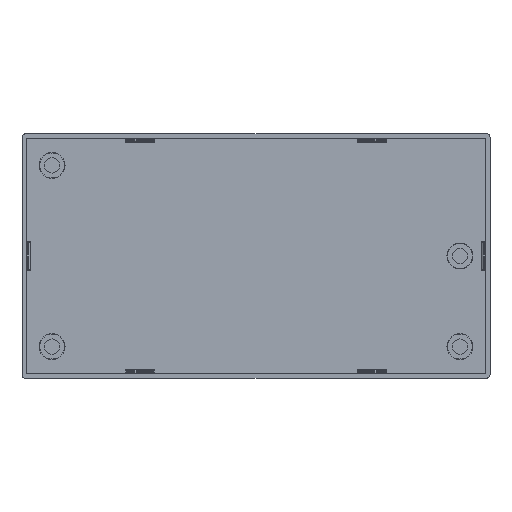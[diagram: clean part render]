
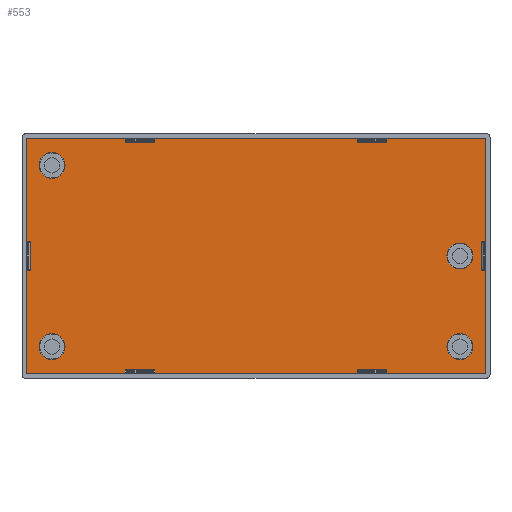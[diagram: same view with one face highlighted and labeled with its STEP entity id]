
A CAD part, front view. The second image highlights one B-rep face of the part: STEP entity #553.
In plain terms, the highlighted planar face has unit normal (0, -1, 0).
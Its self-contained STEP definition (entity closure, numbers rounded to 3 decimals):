
#22 = VERTEX_POINT('',#23);
#23 = CARTESIAN_POINT('',(22.875,0.,-11.61));
#41 = VERTEX_POINT('',#42);
#42 = CARTESIAN_POINT('',(22.875,0.,-8.71));
#48 = EDGE_CURVE('',#22,#41,#49,.T.);
#49 = CIRCLE('',#50,1.45);
#50 = AXIS2_PLACEMENT_3D('',#51,#52,#53);
#51 = CARTESIAN_POINT('',(22.875,0.,-10.16));
#52 = DIRECTION('',(0.,-1.,0.));
#53 = DIRECTION('',(0.,0.,-1.));
#64 = VERTEX_POINT('',#65);
#65 = CARTESIAN_POINT('',(22.875,0.,-1.45));
#83 = VERTEX_POINT('',#84);
#84 = CARTESIAN_POINT('',(22.875,0.,1.45));
#90 = EDGE_CURVE('',#64,#83,#91,.T.);
#91 = CIRCLE('',#92,1.45);
#92 = AXIS2_PLACEMENT_3D('',#93,#94,#95);
#93 = CARTESIAN_POINT('',(22.875,0.,0.));
#94 = DIRECTION('',(0.,-1.,0.));
#95 = DIRECTION('',(0.,0.,-1.));
#106 = VERTEX_POINT('',#107);
#107 = CARTESIAN_POINT('',(-22.875,0.,-11.61));
#125 = VERTEX_POINT('',#126);
#126 = CARTESIAN_POINT('',(-22.875,0.,-8.71));
#132 = EDGE_CURVE('',#106,#125,#133,.T.);
#133 = CIRCLE('',#134,1.45);
#134 = AXIS2_PLACEMENT_3D('',#135,#136,#137);
#135 = CARTESIAN_POINT('',(-22.875,0.,-10.16));
#136 = DIRECTION('',(0.,-1.,0.));
#137 = DIRECTION('',(0.,0.,-1.));
#148 = VERTEX_POINT('',#149);
#149 = CARTESIAN_POINT('',(-22.875,0.,8.71));
#167 = VERTEX_POINT('',#168);
#168 = CARTESIAN_POINT('',(-22.875,0.,11.61));
#174 = EDGE_CURVE('',#148,#167,#175,.T.);
#175 = CIRCLE('',#176,1.45);
#176 = AXIS2_PLACEMENT_3D('',#177,#178,#179);
#177 = CARTESIAN_POINT('',(-22.875,0.,10.16));
#178 = DIRECTION('',(0.,-1.,0.));
#179 = DIRECTION('',(0.,0.,-1.));
#200 = VERTEX_POINT('',#201);
#201 = CARTESIAN_POINT('',(25.7,0.,-1.65));
#207 = EDGE_CURVE('',#200,#208,#210,.T.);
#208 = VERTEX_POINT('',#209);
#209 = CARTESIAN_POINT('',(25.7,0.,-13.15));
#210 = LINE('',#211,#212);
#211 = CARTESIAN_POINT('',(25.7,0.,-13.15));
#212 = VECTOR('',#213,1.);
#213 = DIRECTION('',(0.,-0.,-1.));
#232 = VERTEX_POINT('',#233);
#233 = CARTESIAN_POINT('',(25.7,0.,13.15));
#239 = EDGE_CURVE('',#232,#240,#242,.T.);
#240 = VERTEX_POINT('',#241);
#241 = CARTESIAN_POINT('',(25.7,0.,1.65));
#242 = LINE('',#243,#244);
#243 = CARTESIAN_POINT('',(25.7,0.,-13.15));
#244 = VECTOR('',#245,1.);
#245 = DIRECTION('',(0.,-0.,-1.));
#272 = VERTEX_POINT('',#273);
#273 = CARTESIAN_POINT('',(-14.65,0.,-13.15));
#279 = EDGE_CURVE('',#272,#280,#282,.T.);
#280 = VERTEX_POINT('',#281);
#281 = CARTESIAN_POINT('',(-25.7,0.,-13.15));
#282 = LINE('',#283,#284);
#283 = CARTESIAN_POINT('',(-25.7,0.,-13.15));
#284 = VECTOR('',#285,1.);
#285 = DIRECTION('',(-1.,-0.,0.));
#302 = EDGE_CURVE('',#208,#303,#305,.T.);
#303 = VERTEX_POINT('',#304);
#304 = CARTESIAN_POINT('',(14.65,0.,-13.15));
#305 = LINE('',#306,#307);
#306 = CARTESIAN_POINT('',(-25.7,0.,-13.15));
#307 = VECTOR('',#308,1.);
#308 = DIRECTION('',(-1.,-0.,0.));
#327 = VERTEX_POINT('',#328);
#328 = CARTESIAN_POINT('',(11.35,0.,-13.15));
#334 = EDGE_CURVE('',#327,#335,#337,.T.);
#335 = VERTEX_POINT('',#336);
#336 = CARTESIAN_POINT('',(-11.35,0.,-13.15));
#337 = LINE('',#338,#339);
#338 = CARTESIAN_POINT('',(-25.7,0.,-13.15));
#339 = VECTOR('',#340,1.);
#340 = DIRECTION('',(-1.,-0.,0.));
#367 = VERTEX_POINT('',#368);
#368 = CARTESIAN_POINT('',(-25.7,0.,1.65));
#374 = EDGE_CURVE('',#367,#375,#377,.T.);
#375 = VERTEX_POINT('',#376);
#376 = CARTESIAN_POINT('',(-25.7,0.,13.15));
#377 = LINE('',#378,#379);
#378 = CARTESIAN_POINT('',(-25.7,0.,-13.15));
#379 = VECTOR('',#380,1.);
#380 = DIRECTION('',(0.,0.,1.));
#397 = EDGE_CURVE('',#280,#398,#400,.T.);
#398 = VERTEX_POINT('',#399);
#399 = CARTESIAN_POINT('',(-25.7,0.,-1.65));
#400 = LINE('',#401,#402);
#401 = CARTESIAN_POINT('',(-25.7,0.,-13.15));
#402 = VECTOR('',#403,1.);
#403 = DIRECTION('',(0.,0.,1.));
#419 = EDGE_CURVE('',#420,#422,#424,.T.);
#420 = VERTEX_POINT('',#421);
#421 = CARTESIAN_POINT('',(-11.35,0.,13.15));
#422 = VERTEX_POINT('',#423);
#423 = CARTESIAN_POINT('',(11.35,0.,13.15));
#424 = LINE('',#425,#426);
#425 = CARTESIAN_POINT('',(-25.7,0.,13.15));
#426 = VECTOR('',#427,1.);
#427 = DIRECTION('',(1.,0.,0.));
#446 = VERTEX_POINT('',#447);
#447 = CARTESIAN_POINT('',(14.65,0.,13.15));
#453 = EDGE_CURVE('',#446,#232,#454,.T.);
#454 = LINE('',#455,#456);
#455 = CARTESIAN_POINT('',(-25.7,0.,13.15));
#456 = VECTOR('',#457,1.);
#457 = DIRECTION('',(1.,0.,0.));
#467 = EDGE_CURVE('',#375,#468,#470,.T.);
#468 = VERTEX_POINT('',#469);
#469 = CARTESIAN_POINT('',(-14.65,0.,13.15));
#470 = LINE('',#471,#472);
#471 = CARTESIAN_POINT('',(-25.7,0.,13.15));
#472 = VECTOR('',#473,1.);
#473 = DIRECTION('',(1.,0.,0.));
#553 = ADVANCED_FACE('',(#554,#564,#574,#584,#594),#738,.F.);
#554 = FACE_BOUND('',#555,.T.);
#555 = EDGE_LOOP('',(#556,#557));
#556 = ORIENTED_EDGE('',*,*,#48,.F.);
#557 = ORIENTED_EDGE('',*,*,#558,.F.);
#558 = EDGE_CURVE('',#41,#22,#559,.T.);
#559 = CIRCLE('',#560,1.45);
#560 = AXIS2_PLACEMENT_3D('',#561,#562,#563);
#561 = CARTESIAN_POINT('',(22.875,0.,-10.16));
#562 = DIRECTION('',(0.,-1.,0.));
#563 = DIRECTION('',(0.,0.,-1.));
#564 = FACE_BOUND('',#565,.T.);
#565 = EDGE_LOOP('',(#566,#567));
#566 = ORIENTED_EDGE('',*,*,#90,.F.);
#567 = ORIENTED_EDGE('',*,*,#568,.F.);
#568 = EDGE_CURVE('',#83,#64,#569,.T.);
#569 = CIRCLE('',#570,1.45);
#570 = AXIS2_PLACEMENT_3D('',#571,#572,#573);
#571 = CARTESIAN_POINT('',(22.875,0.,0.));
#572 = DIRECTION('',(0.,-1.,0.));
#573 = DIRECTION('',(0.,0.,-1.));
#574 = FACE_BOUND('',#575,.T.);
#575 = EDGE_LOOP('',(#576,#577));
#576 = ORIENTED_EDGE('',*,*,#132,.F.);
#577 = ORIENTED_EDGE('',*,*,#578,.F.);
#578 = EDGE_CURVE('',#125,#106,#579,.T.);
#579 = CIRCLE('',#580,1.45);
#580 = AXIS2_PLACEMENT_3D('',#581,#582,#583);
#581 = CARTESIAN_POINT('',(-22.875,0.,-10.16));
#582 = DIRECTION('',(0.,-1.,0.));
#583 = DIRECTION('',(0.,0.,-1.));
#584 = FACE_BOUND('',#585,.T.);
#585 = EDGE_LOOP('',(#586,#587));
#586 = ORIENTED_EDGE('',*,*,#174,.F.);
#587 = ORIENTED_EDGE('',*,*,#588,.F.);
#588 = EDGE_CURVE('',#167,#148,#589,.T.);
#589 = CIRCLE('',#590,1.45);
#590 = AXIS2_PLACEMENT_3D('',#591,#592,#593);
#591 = CARTESIAN_POINT('',(-22.875,0.,10.16));
#592 = DIRECTION('',(0.,-1.,0.));
#593 = DIRECTION('',(0.,0.,-1.));
#594 = FACE_BOUND('',#595,.T.);
#595 = EDGE_LOOP('',(#596,#597,#605,#613,#619,#620,#621,#629,#637,#643,
    #644,#652,#660,#666,#667,#668,#676,#684,#690,#691,#692,#700,#708,
    #714,#715,#723,#731,#737));
#596 = ORIENTED_EDGE('',*,*,#207,.F.);
#597 = ORIENTED_EDGE('',*,*,#598,.F.);
#598 = EDGE_CURVE('',#599,#200,#601,.T.);
#599 = VERTEX_POINT('',#600);
#600 = CARTESIAN_POINT('',(25.25,0.,-1.65));
#601 = LINE('',#602,#603);
#602 = CARTESIAN_POINT('',(25.7,0.,-1.65));
#603 = VECTOR('',#604,1.);
#604 = DIRECTION('',(1.,0.,0.));
#605 = ORIENTED_EDGE('',*,*,#606,.F.);
#606 = EDGE_CURVE('',#607,#599,#609,.T.);
#607 = VERTEX_POINT('',#608);
#608 = CARTESIAN_POINT('',(25.25,0.,1.65));
#609 = LINE('',#610,#611);
#610 = CARTESIAN_POINT('',(25.25,0.,1.65));
#611 = VECTOR('',#612,1.);
#612 = DIRECTION('',(0.,0.,-1.));
#613 = ORIENTED_EDGE('',*,*,#614,.F.);
#614 = EDGE_CURVE('',#240,#607,#615,.T.);
#615 = LINE('',#616,#617);
#616 = CARTESIAN_POINT('',(25.7,0.,1.65));
#617 = VECTOR('',#618,1.);
#618 = DIRECTION('',(-1.,0.,0.));
#619 = ORIENTED_EDGE('',*,*,#239,.F.);
#620 = ORIENTED_EDGE('',*,*,#453,.F.);
#621 = ORIENTED_EDGE('',*,*,#622,.F.);
#622 = EDGE_CURVE('',#623,#446,#625,.T.);
#623 = VERTEX_POINT('',#624);
#624 = CARTESIAN_POINT('',(14.65,0.,12.7));
#625 = LINE('',#626,#627);
#626 = CARTESIAN_POINT('',(14.65,0.,13.15));
#627 = VECTOR('',#628,1.);
#628 = DIRECTION('',(0.,0.,1.));
#629 = ORIENTED_EDGE('',*,*,#630,.F.);
#630 = EDGE_CURVE('',#631,#623,#633,.T.);
#631 = VERTEX_POINT('',#632);
#632 = CARTESIAN_POINT('',(11.35,0.,12.7));
#633 = LINE('',#634,#635);
#634 = CARTESIAN_POINT('',(11.35,0.,12.7));
#635 = VECTOR('',#636,1.);
#636 = DIRECTION('',(1.,0.,0.));
#637 = ORIENTED_EDGE('',*,*,#638,.F.);
#638 = EDGE_CURVE('',#422,#631,#639,.T.);
#639 = LINE('',#640,#641);
#640 = CARTESIAN_POINT('',(11.35,0.,13.15));
#641 = VECTOR('',#642,1.);
#642 = DIRECTION('',(0.,0.,-1.));
#643 = ORIENTED_EDGE('',*,*,#419,.F.);
#644 = ORIENTED_EDGE('',*,*,#645,.F.);
#645 = EDGE_CURVE('',#646,#420,#648,.T.);
#646 = VERTEX_POINT('',#647);
#647 = CARTESIAN_POINT('',(-11.35,0.,12.7));
#648 = LINE('',#649,#650);
#649 = CARTESIAN_POINT('',(-11.35,0.,13.15));
#650 = VECTOR('',#651,1.);
#651 = DIRECTION('',(0.,0.,1.));
#652 = ORIENTED_EDGE('',*,*,#653,.F.);
#653 = EDGE_CURVE('',#654,#646,#656,.T.);
#654 = VERTEX_POINT('',#655);
#655 = CARTESIAN_POINT('',(-14.65,0.,12.7));
#656 = LINE('',#657,#658);
#657 = CARTESIAN_POINT('',(-14.65,0.,12.7));
#658 = VECTOR('',#659,1.);
#659 = DIRECTION('',(1.,0.,0.));
#660 = ORIENTED_EDGE('',*,*,#661,.F.);
#661 = EDGE_CURVE('',#468,#654,#662,.T.);
#662 = LINE('',#663,#664);
#663 = CARTESIAN_POINT('',(-14.65,0.,13.15));
#664 = VECTOR('',#665,1.);
#665 = DIRECTION('',(0.,0.,-1.));
#666 = ORIENTED_EDGE('',*,*,#467,.F.);
#667 = ORIENTED_EDGE('',*,*,#374,.F.);
#668 = ORIENTED_EDGE('',*,*,#669,.F.);
#669 = EDGE_CURVE('',#670,#367,#672,.T.);
#670 = VERTEX_POINT('',#671);
#671 = CARTESIAN_POINT('',(-25.25,0.,1.65));
#672 = LINE('',#673,#674);
#673 = CARTESIAN_POINT('',(-25.7,0.,1.65));
#674 = VECTOR('',#675,1.);
#675 = DIRECTION('',(-1.,0.,0.));
#676 = ORIENTED_EDGE('',*,*,#677,.F.);
#677 = EDGE_CURVE('',#678,#670,#680,.T.);
#678 = VERTEX_POINT('',#679);
#679 = CARTESIAN_POINT('',(-25.25,0.,-1.65));
#680 = LINE('',#681,#682);
#681 = CARTESIAN_POINT('',(-25.25,0.,1.65));
#682 = VECTOR('',#683,1.);
#683 = DIRECTION('',(0.,0.,1.));
#684 = ORIENTED_EDGE('',*,*,#685,.F.);
#685 = EDGE_CURVE('',#398,#678,#686,.T.);
#686 = LINE('',#687,#688);
#687 = CARTESIAN_POINT('',(-25.7,0.,-1.65));
#688 = VECTOR('',#689,1.);
#689 = DIRECTION('',(1.,0.,0.));
#690 = ORIENTED_EDGE('',*,*,#397,.F.);
#691 = ORIENTED_EDGE('',*,*,#279,.F.);
#692 = ORIENTED_EDGE('',*,*,#693,.F.);
#693 = EDGE_CURVE('',#694,#272,#696,.T.);
#694 = VERTEX_POINT('',#695);
#695 = CARTESIAN_POINT('',(-14.65,0.,-12.75));
#696 = LINE('',#697,#698);
#697 = CARTESIAN_POINT('',(-14.65,0.,-13.15));
#698 = VECTOR('',#699,1.);
#699 = DIRECTION('',(0.,0.,-1.));
#700 = ORIENTED_EDGE('',*,*,#701,.F.);
#701 = EDGE_CURVE('',#702,#694,#704,.T.);
#702 = VERTEX_POINT('',#703);
#703 = CARTESIAN_POINT('',(-11.35,0.,-12.75));
#704 = LINE('',#705,#706);
#705 = CARTESIAN_POINT('',(-14.65,0.,-12.75));
#706 = VECTOR('',#707,1.);
#707 = DIRECTION('',(-1.,-0.,-0.));
#708 = ORIENTED_EDGE('',*,*,#709,.F.);
#709 = EDGE_CURVE('',#335,#702,#710,.T.);
#710 = LINE('',#711,#712);
#711 = CARTESIAN_POINT('',(-11.35,0.,-13.15));
#712 = VECTOR('',#713,1.);
#713 = DIRECTION('',(0.,0.,1.));
#714 = ORIENTED_EDGE('',*,*,#334,.F.);
#715 = ORIENTED_EDGE('',*,*,#716,.F.);
#716 = EDGE_CURVE('',#717,#327,#719,.T.);
#717 = VERTEX_POINT('',#718);
#718 = CARTESIAN_POINT('',(11.35,0.,-12.7));
#719 = LINE('',#720,#721);
#720 = CARTESIAN_POINT('',(11.35,0.,-13.15));
#721 = VECTOR('',#722,1.);
#722 = DIRECTION('',(0.,0.,-1.));
#723 = ORIENTED_EDGE('',*,*,#724,.F.);
#724 = EDGE_CURVE('',#725,#717,#727,.T.);
#725 = VERTEX_POINT('',#726);
#726 = CARTESIAN_POINT('',(14.65,0.,-12.7));
#727 = LINE('',#728,#729);
#728 = CARTESIAN_POINT('',(11.35,0.,-12.7));
#729 = VECTOR('',#730,1.);
#730 = DIRECTION('',(-1.,-0.,0.));
#731 = ORIENTED_EDGE('',*,*,#732,.F.);
#732 = EDGE_CURVE('',#303,#725,#733,.T.);
#733 = LINE('',#734,#735);
#734 = CARTESIAN_POINT('',(14.65,0.,-13.15));
#735 = VECTOR('',#736,1.);
#736 = DIRECTION('',(0.,0.,1.));
#737 = ORIENTED_EDGE('',*,*,#302,.F.);
#738 = PLANE('',#739);
#739 = AXIS2_PLACEMENT_3D('',#740,#741,#742);
#740 = CARTESIAN_POINT('',(0.,0.,0.));
#741 = DIRECTION('',(0.,1.,0.));
#742 = DIRECTION('',(0.,0.,1.));
